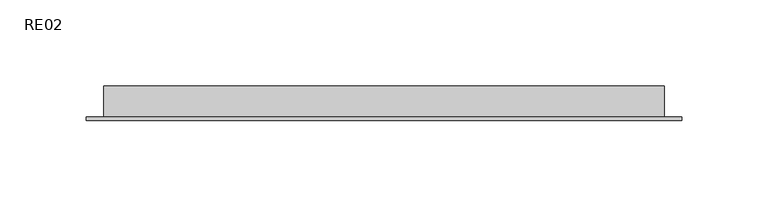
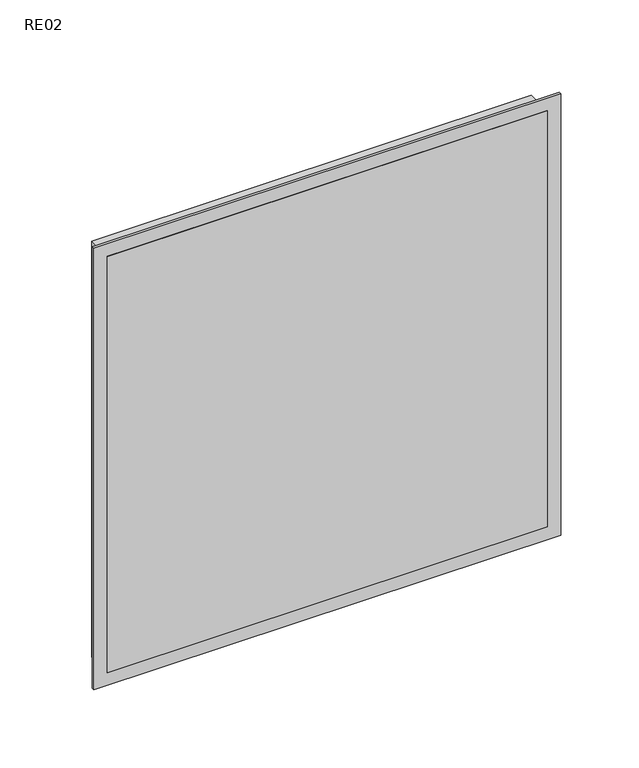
"""IFC4 building model written with IfcOpenShell, lengths in millimetres: air terminal geometry, ZYR_03.06.04.01 Reixa Paret Extracció : RE02."""

from ifc_helpers import new_model, si_unit, frame, origin, place, context, project, spatial, polyline, outline, extrude, source, transform, mapped, element, save


def re02_9e634db7(model_context):
    return source(origin(), model_context, "Body", "SweptSolid", [
        extrude(outline(polyline([(162.5, 0.0), (-162.5, 0.0), (-162.5, 20.0), (162.5, 20.0), (162.5, 0.0)])), frame((0.0, 0.0, -162.5), z_axis=(0.0, 0.0, 1.0), x_axis=(1.0, 0.0, 0.0)), (0.0, 0.0, 1.0), 325.0),
        extrude(outline(polyline([(172.5, 172.5), (172.5, -172.5), (-172.5, -172.5), (-172.5, 172.5), (172.5, 172.5)]), holes=[polyline([(162.5, 162.5), (-162.5, 162.5), (-162.5, -162.5), (162.5, -162.5), (162.5, 162.5)])]), frame((0.0, 0.0, 0.0), z_axis=(0.0, 1.0, 0.0), x_axis=(0.0, 0.0, 1.0)), (0.0, 0.0, 1.0), 2.0),
    ])


if __name__ == "__main__":
    model = new_model("IFC4")
    model_context = context("Model", 3, world=origin())
    ifc_project = project(units=[si_unit("LENGTHUNIT", "METRE", prefix="MILLI")], contexts=[model_context])
    site = spatial("IfcSite", under=ifc_project)
    building = spatial("IfcBuilding", under=site)
    placement = place(None, origin())
    re02_shape = re02_9e634db7(model_context)
    element("IfcAirTerminal", 1, ObjectType="ZYR_03.06.04.01 Reixa Paret Extracció : RE02", at=placement, inside=building, context=model_context, shape_type="MappedRepresentation", body=[
        mapped(re02_shape, transform((0.0, 0.0, 0.0), x_axis=(1.0, 0.0, 0.0), y_axis=(0.0, 1.0, 0.0), z_axis=(0.0, 0.0, 1.0))),
    ])
    save(model, "model.ifc")
